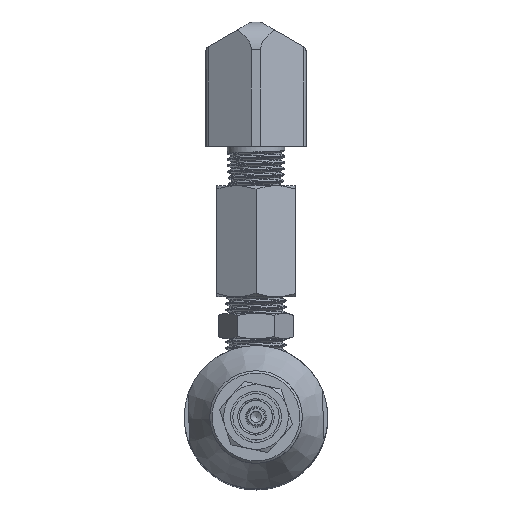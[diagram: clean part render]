
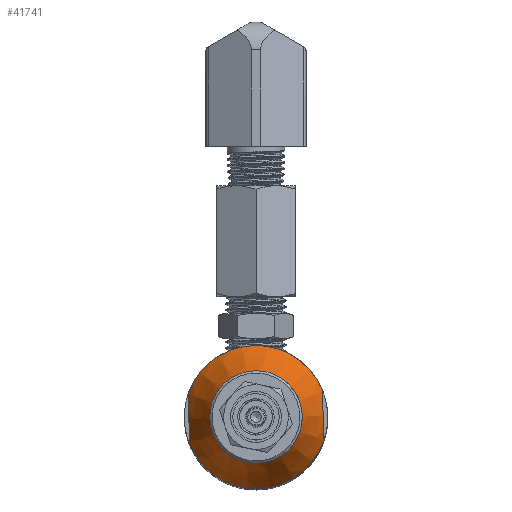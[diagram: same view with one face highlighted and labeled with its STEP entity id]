
A CAD part, top view. The second image highlights one B-rep face of the part: STEP entity #41741.
In plain terms, the highlighted conical face has half-angle 28.85 degrees and reference radius 15.494 mm.
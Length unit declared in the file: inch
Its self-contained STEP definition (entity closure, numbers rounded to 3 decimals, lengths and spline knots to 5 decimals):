
#64=(
BOUNDED_CURVE()
B_SPLINE_CURVE(2,(#181946,#181947,#181948),.UNSPECIFIED.,.F.,.F.)
B_SPLINE_CURVE_WITH_KNOTS((3,3),(0.58004,1.16008),
 .UNSPECIFIED.)
CURVE()
GEOMETRIC_REPRESENTATION_ITEM()
RATIONAL_B_SPLINE_CURVE((1.,1.017,1.))
REPRESENTATION_ITEM('')
);
#65=(
BOUNDED_CURVE()
B_SPLINE_CURVE(2,(#181949,#181950,#181951),.UNSPECIFIED.,.F.,.F.)
B_SPLINE_CURVE_WITH_KNOTS((3,3),(0.,0.58004),.UNSPECIFIED.)
CURVE()
GEOMETRIC_REPRESENTATION_ITEM()
RATIONAL_B_SPLINE_CURVE((1.,1.017,1.))
REPRESENTATION_ITEM('')
);
#66=(
BOUNDED_CURVE()
B_SPLINE_CURVE(2,(#181963,#181964,#181965),.UNSPECIFIED.,.F.,.F.)
B_SPLINE_CURVE_WITH_KNOTS((3,3),(0.58004,1.16008),
 .UNSPECIFIED.)
CURVE()
GEOMETRIC_REPRESENTATION_ITEM()
RATIONAL_B_SPLINE_CURVE((1.,1.017,1.))
REPRESENTATION_ITEM('')
);
#67=(
BOUNDED_CURVE()
B_SPLINE_CURVE(2,(#181967,#181968,#181969),.UNSPECIFIED.,.F.,.F.)
B_SPLINE_CURVE_WITH_KNOTS((3,3),(0.,0.58004),.UNSPECIFIED.)
CURVE()
GEOMETRIC_REPRESENTATION_ITEM()
RATIONAL_B_SPLINE_CURVE((1.,1.017,1.))
REPRESENTATION_ITEM('')
);
#683=CONICAL_SURFACE('',#43128,0.61,28.85);
#1021=CIRCLE('',#43129,0.3935);
#1022=CIRCLE('',#43130,0.61);
#1023=CIRCLE('',#43131,0.61);
#1560=FACE_BOUND('',#6740,.T.);
#4331=FACE_OUTER_BOUND('',#6739,.T.);
#6739=EDGE_LOOP('',(#34186));
#6740=EDGE_LOOP('',(#34187,#34188,#34189,#34190,#34191,#34192));
#17724=VERTEX_POINT('',#181939);
#17726=VERTEX_POINT('',#181943);
#17727=VERTEX_POINT('',#181945);
#17730=VERTEX_POINT('',#181960);
#17731=VERTEX_POINT('',#181962);
#17732=VERTEX_POINT('',#181966);
#17733=VERTEX_POINT('',#181972);
#23385=EDGE_CURVE('',#17727,#17726,#64,.T.);
#23386=EDGE_CURVE('',#17724,#17727,#65,.T.);
#23391=EDGE_CURVE('',#17731,#17730,#66,.T.);
#23392=EDGE_CURVE('',#17732,#17731,#67,.T.);
#23394=EDGE_CURVE('',#17733,#17733,#1021,.T.);
#23395=EDGE_CURVE('',#17732,#17726,#1022,.T.);
#23396=EDGE_CURVE('',#17724,#17730,#1023,.T.);
#34186=ORIENTED_EDGE('',*,*,#23394,.T.);
#34187=ORIENTED_EDGE('',*,*,#23386,.T.);
#34188=ORIENTED_EDGE('',*,*,#23385,.T.);
#34189=ORIENTED_EDGE('',*,*,#23395,.F.);
#34190=ORIENTED_EDGE('',*,*,#23392,.T.);
#34191=ORIENTED_EDGE('',*,*,#23391,.T.);
#34192=ORIENTED_EDGE('',*,*,#23396,.F.);
#41741=ADVANCED_FACE('',(#4331,#1560),#683,.T.);
#43128=AXIS2_PLACEMENT_3D('',#181971,#47528,#47529);
#43129=AXIS2_PLACEMENT_3D('',#181973,#47530,#47531);
#43130=AXIS2_PLACEMENT_3D('',#181974,#47532,#47533);
#43131=AXIS2_PLACEMENT_3D('',#181975,#47534,#47535);
#47528=DIRECTION('center_axis',(0.,0.,-1.));
#47529=DIRECTION('ref_axis',(1.,0.,0.));
#47530=DIRECTION('center_axis',(0.,0.,-1.));
#47531=DIRECTION('ref_axis',(-1.,0.,0.));
#47532=DIRECTION('center_axis',(0.,0.,-1.));
#47533=DIRECTION('ref_axis',(-1.,0.,0.));
#47534=DIRECTION('center_axis',(0.,0.,-1.));
#47535=DIRECTION('ref_axis',(-1.,0.,0.));
#181939=CARTESIAN_POINT('',(0.21461,0.571,0.394));
#181943=CARTESIAN_POINT('',(-0.21461,0.571,0.394));
#181945=CARTESIAN_POINT('',(0.,0.571,0.46479));
#181946=CARTESIAN_POINT('Ctrl Pts',(0.,0.571,0.46479));
#181947=CARTESIAN_POINT('Ctrl Pts',(-0.10376,0.571,0.46479));
#181948=CARTESIAN_POINT('Ctrl Pts',(-0.21461,0.571,0.394));
#181949=CARTESIAN_POINT('Ctrl Pts',(0.21461,0.571,0.394));
#181950=CARTESIAN_POINT('Ctrl Pts',(0.10376,0.571,0.46479));
#181951=CARTESIAN_POINT('Ctrl Pts',(0.,0.571,0.46479));
#181960=CARTESIAN_POINT('',(0.21461,-0.571,0.394));
#181962=CARTESIAN_POINT('',(0.,-0.571,0.46479));
#181963=CARTESIAN_POINT('Ctrl Pts',(0.,-0.571,0.46479));
#181964=CARTESIAN_POINT('Ctrl Pts',(0.10376,-0.571,0.46479));
#181965=CARTESIAN_POINT('Ctrl Pts',(0.21461,-0.571,0.394));
#181966=CARTESIAN_POINT('',(-0.21461,-0.571,0.394));
#181967=CARTESIAN_POINT('Ctrl Pts',(-0.21461,-0.571,0.394));
#181968=CARTESIAN_POINT('Ctrl Pts',(-0.10376,-0.571,0.46479));
#181969=CARTESIAN_POINT('Ctrl Pts',(0.,-0.571,0.46479));
#181971=CARTESIAN_POINT('Origin',(0.,0.,0.394));
#181972=CARTESIAN_POINT('',(-0.3935,0.,0.787));
#181973=CARTESIAN_POINT('Origin',(0.,0.,0.787));
#181974=CARTESIAN_POINT('Origin',(0.,0.,0.394));
#181975=CARTESIAN_POINT('Origin',(0.,0.,0.394));
